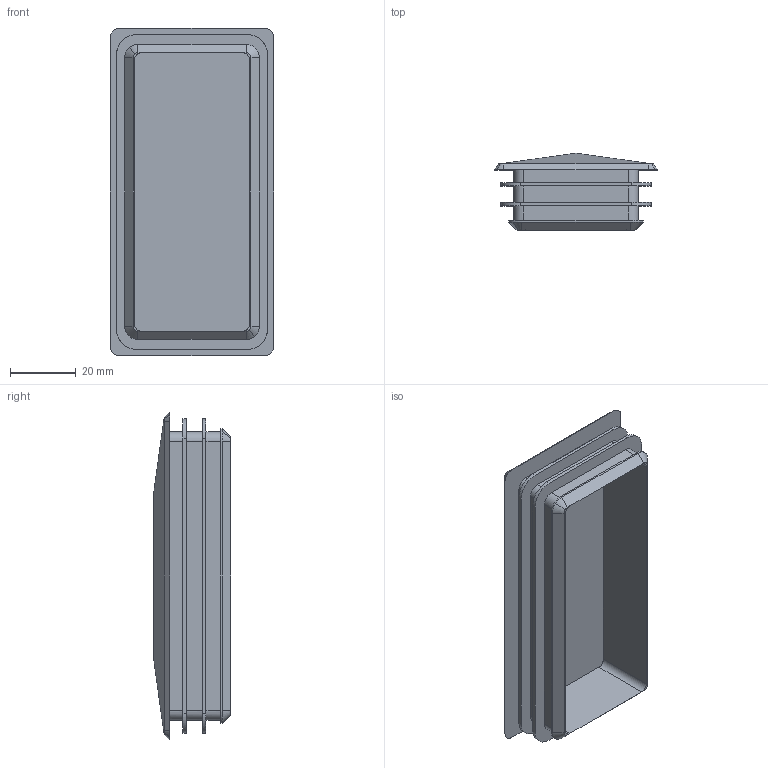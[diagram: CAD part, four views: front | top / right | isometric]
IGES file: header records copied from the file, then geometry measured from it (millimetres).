
Global section: file name: DR_PR4-50100-H; native system: Autodesk Inventor 2015; preprocessor: unknown; author: user; date: 20210201.102556; units: millimetre
Bounding box: 50 x 23.5 x 100 mm (x, y, z)
Volume: 23538.3 mm3; surface area: 23770.6 mm2
Topology: 1 solids, 1 shells, 95 faces, 237 edges, 150 vertices
Faces by surface type: bspline 95
